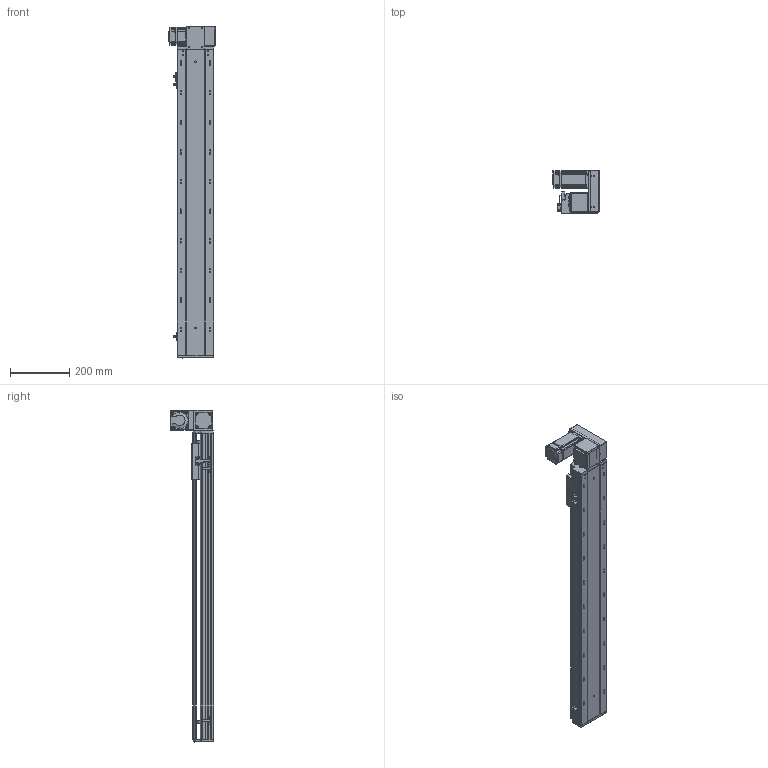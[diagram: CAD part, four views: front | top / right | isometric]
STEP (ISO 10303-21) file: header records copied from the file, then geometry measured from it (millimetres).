
FILE_DESCRIPTION (( 'STEP AP203' ), '1' );
FILE_NAME ('RY120-T-300-UR.SLDASM_800.step', '2021-03-01T05:56:18', ( '盈信电脑' ), ( '东莞市道滘镇水果街19号' ), 'SwSTEP 2.0', 'SolidWorks 2012', '' );
FILE_SCHEMA (( 'CONFIG_CONTROL_DESIGN' ));
Length unit declared in the file: millimetre
Products named in the file (17): RY120-T-300-UR.SLDASM_800; RY120-T主同步轮轴承压盖; RY120-T萇儂欶; 15; RY120-T蹟翐M4; RY120-T萇儂假蚾啣; RY120-T翋肮祭謫裔啣; RY120-T翋肮祭盓傅釱; 滅袉蝶18-10; 覜茼ん672; RY120-T肮祭湍揤踡輸2; RY120外置感应片(140共用）; RY120-T肮祭湍揤踡輸1; RY120肮祭湍臏賑輸; RY120-T-300-UR倰第奻裔啣_800; RY120綴裔啣; RY120-T-300-UR倰第菁釱_800
Assembly tree (22 placements, depth 2):
  RY120-T-300-UR.SLDASM_800
    RY120-T-300-UR倰第菁釱_800
    RY120-T-300-UR倰第奻裔啣_800
    RY120肮祭湍臏賑輸
    RY120綴裔啣
    覜茼ん672  x3
    RY120外置感应片(140共用）
    RY120-T肮祭湍揤踡輸1
    RY120-T肮祭湍揤踡輸2
    RY120-T翋肮祭盓傅釱
    RY120-T萇儂假蚾啣
    滅袉蝶18-10  x2
    RY120-T翋肮祭謫裔啣
    15
    RY120-T蹟翐M4  x4
    RY120-T萇儂欶
    RY120-T主同步轮轴承压盖
Bounding box: 155.5 x 146 x 1121 mm (x, y, z)
Volume: 3173127.3 mm3; surface area: 1178623 mm2
Topology: 23 solids, 23 shells, 2914 faces, 7996 edges, 5144 vertices
Faces by surface type: plane 1442, cylinder 1140, cone 243, bspline 89
Entity records: 94247 total; most frequent: CARTESIAN_POINT 24794, ORIENTED_EDGE 14440, DIRECTION 13478, EDGE_CURVE 7220, VERTEX_POINT 4731, AXIS2_PLACEMENT_3D 4527, LINE 4424, VECTOR 4424
